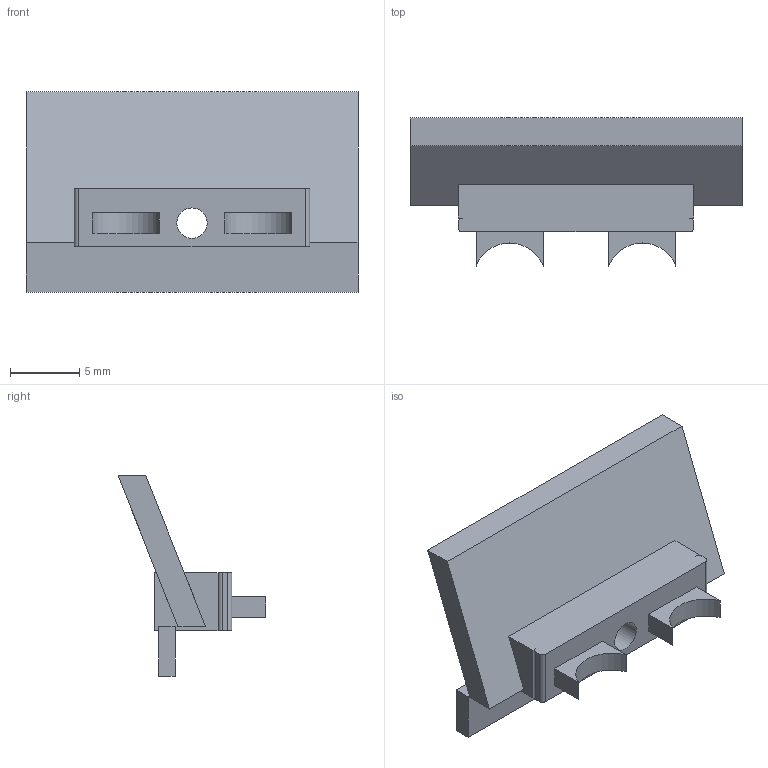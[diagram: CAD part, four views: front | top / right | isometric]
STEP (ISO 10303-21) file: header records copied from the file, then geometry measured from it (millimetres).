
FILE_DESCRIPTION(('FreeCAD Model'),'2;1');
FILE_NAME('Open CASCADE Shape Model','2026-11-13T18:42:40',('FreeCAD'),( 'FreeCAD'),'Open CASCADE STEP processor 7.8','FreeCAD','Unknown');
FILE_SCHEMA(('AUTOMOTIVE_DESIGN { 1 0 10303 214 1 1 1 1 }'));
Length unit declared in the file: millimetre
Products named in the file (1): Open CASCADE STEP translator 7.8 14
Bounding box: 24 x 10.68 x 14.5 mm (x, y, z)
Volume: 884.7 mm3; surface area: 1120.9 mm2
Topology: 1 solids, 1 shells, 41 faces, 111 edges, 74 vertices
Faces by surface type: plane 32, cylinder 7, bspline 2
Full cylindrical faces by diameter (mm): 2.2 x1
Entity records: 1289 total; most frequent: CARTESIAN_POINT 237, ORIENTED_EDGE 222, DIRECTION 201, EDGE_CURVE 111, LINE 93, VECTOR 93, VERTEX_POINT 74, AXIS2_PLACEMENT_3D 54
